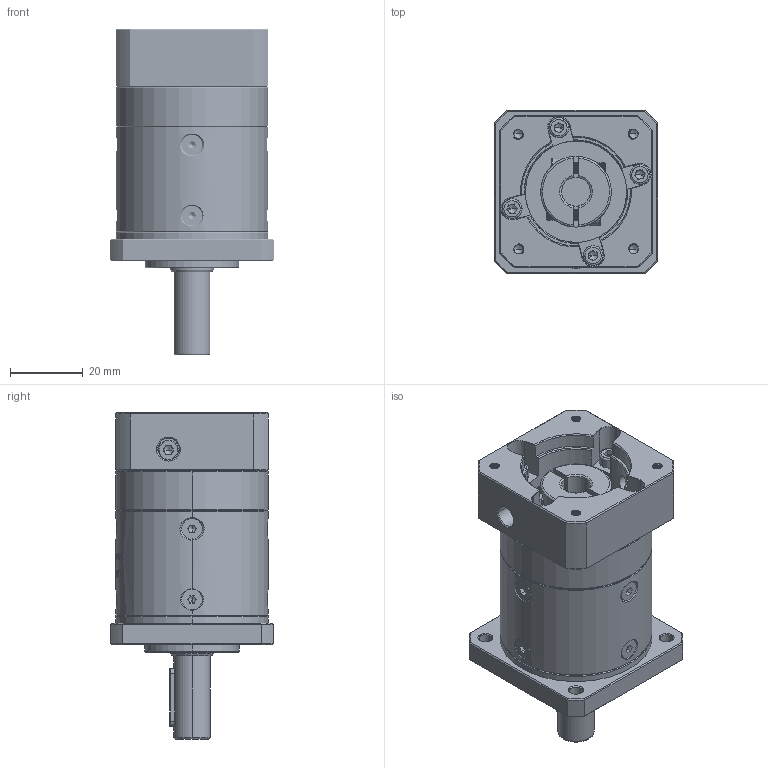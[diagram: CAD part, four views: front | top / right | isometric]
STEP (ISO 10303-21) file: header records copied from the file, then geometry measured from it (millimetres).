
FILE_DESCRIPTION (( 'STEP AP214' ), '1' );
FILE_NAME ('ZF040-D10-L1-P2-8-30-45-M3.STEP', '2023-08-15T11:02:11', ( '' ), ( '' ), 'SwSTEP 2.0', 'SolidWorks 2016', '' );
FILE_SCHEMA (( 'AUTOMOTIVE_DESIGN' ));
Length unit declared in the file: millimetre
Products named in the file (1): ZF040-D10-L1-P2-8-30-45-M3
Bounding box: 45 x 45 x 90 mm (x, y, z)
Volume: 84882.8 mm3; surface area: 26273.2 mm2
Topology: 14 solids, 14 shells, 1533 faces, 3764 edges, 2330 vertices
Faces by surface type: cylinder 461, plane 446, cone 344, bspline 256, torus 26
Entity records: 107433 total; most frequent: CARTESIAN_POINT 56722, ORIENTED_EDGE 7452, DIRECTION 6382, EDGE_CURVE 3726, AXIS2_PLACEMENT_3D 2350, VERTEX_POINT 2330, LINE 1682, VECTOR 1682
